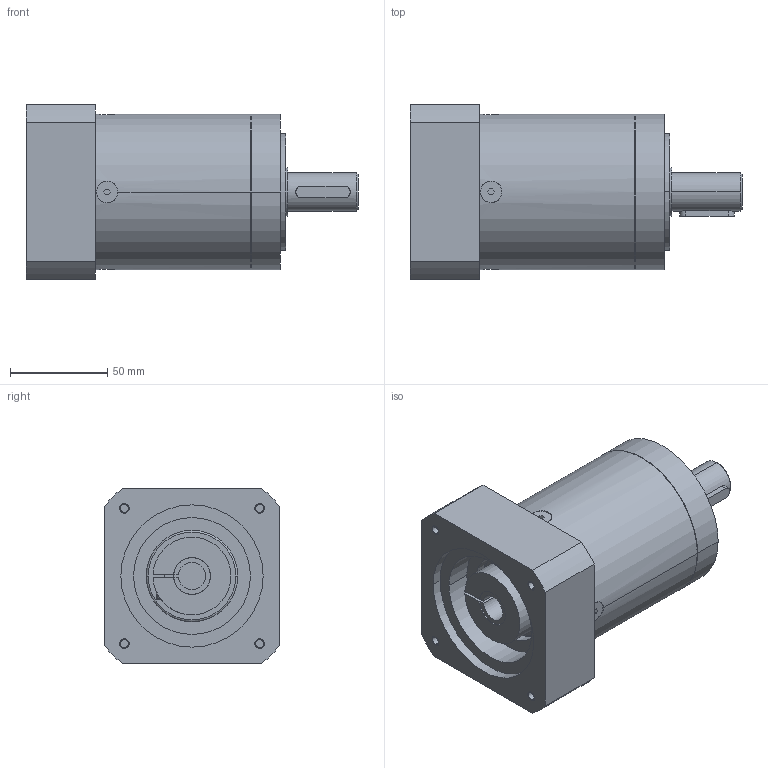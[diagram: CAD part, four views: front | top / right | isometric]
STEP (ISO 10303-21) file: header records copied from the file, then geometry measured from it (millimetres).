
FILE_DESCRIPTION((''),'2;1');
FILE_NAME('MB_PLE_MASTER','2020-02-19T',('agw'),(''),'CREO PARAMETRIC BY PTC INC, 2015290','CREO PARAMETRIC BY PTC INC, 2015290','');
FILE_SCHEMA(('AUTOMOTIVE_DESIGN { 1 0 10303 214 1 1 1 1 }'));
Length unit declared in the file: millimetre
Products named in the file (1): MB_PLE_MASTER
Bounding box: 170.5 x 90 x 90 mm (x, y, z)
Volume: 725913 mm3; surface area: 70925.5 mm2
Topology: 1 solids, 10 shells, 184 faces, 427 edges, 277 vertices
Faces by surface type: plane 86, cylinder 86, cone 6, torus 6
Entity records: 6315 total; most frequent: CARTESIAN_POINT 1081, DIRECTION 963, ORIENTED_EDGE 814, EDGE_CURVE 425, AXIS2_PLACEMENT_3D 364, VERTEX_POINT 277, VECTOR 235, LINE 235
